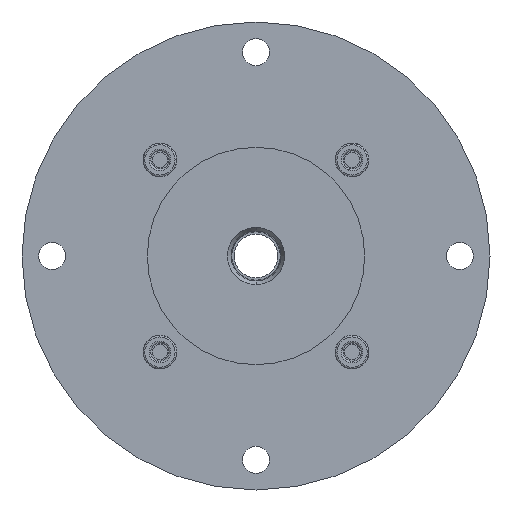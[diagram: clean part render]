
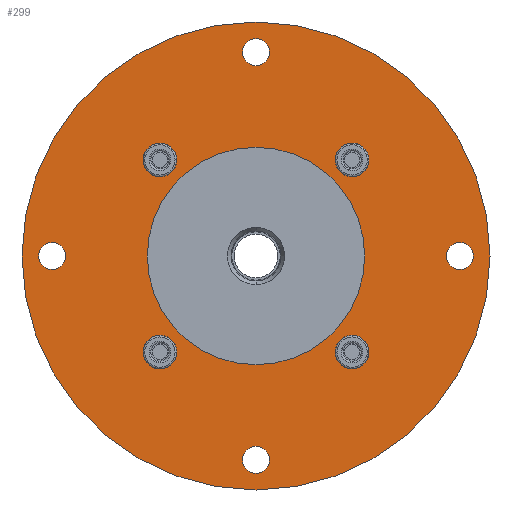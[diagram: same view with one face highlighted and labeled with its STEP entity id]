
A CAD part, front view. The second image highlights one B-rep face of the part: STEP entity #299.
In plain terms, the highlighted planar face has unit normal (0, -1, 0).
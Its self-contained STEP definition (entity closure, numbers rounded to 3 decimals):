
#58=CARTESIAN_POINT('',(31.82,2.5,26.22));
#59=VERTEX_POINT('',#58);
#60=CARTESIAN_POINT('',(37.42,2.5,31.82));
#61=VERTEX_POINT('',#60);
#62=CARTESIAN_POINT('',(31.82,2.5,31.82));
#63=DIRECTION('',(0.0,-1.0,0.0));
#64=DIRECTION('',(1.0,0.0,-0.0));
#65=AXIS2_PLACEMENT_3D('',#62,#63,#64);
#66=CIRCLE('',#65,5.6);
#67=EDGE_CURVE('no 1008',#59,#61,#66,.T.);
#68=ORIENTED_EDGE('',*,*,#67,.F.);
#69=CARTESIAN_POINT('',(31.82,2.5,37.42));
#70=VERTEX_POINT('',#69);
#71=CARTESIAN_POINT('',(31.82,2.5,31.82));
#72=DIRECTION('',(0.0,-1.0,0.0));
#73=DIRECTION('',(1.0,0.0,-0.0));
#74=AXIS2_PLACEMENT_3D('',#71,#72,#73);
#75=CIRCLE('',#74,5.6);
#76=EDGE_CURVE('no 1014',#70,#59,#75,.T.);
#77=ORIENTED_EDGE('',*,*,#76,.F.);
#78=CARTESIAN_POINT('',(31.82,2.5,31.82));
#79=DIRECTION('',(0.0,-1.0,0.0));
#80=DIRECTION('',(1.0,0.0,-0.0));
#81=AXIS2_PLACEMENT_3D('',#78,#79,#80);
#82=CIRCLE('',#81,5.6);
#83=EDGE_CURVE('no 1018',#61,#70,#82,.T.);
#84=ORIENTED_EDGE('',*,*,#83,.F.);
#85=EDGE_LOOP('',(#68,#77,#84));
#86=FACE_BOUND('',#85,.T.);
#87=CARTESIAN_POINT('',(-31.82,2.5,26.22));
#88=VERTEX_POINT('',#87);
#89=CARTESIAN_POINT('',(-31.82,2.5,37.42));
#90=VERTEX_POINT('',#89);
#91=CARTESIAN_POINT('',(-31.82,2.5,31.82));
#92=DIRECTION('',(0.0,-1.0,0.0));
#93=DIRECTION('',(0.0,0.0,1.0));
#94=AXIS2_PLACEMENT_3D('',#91,#92,#93);
#95=CIRCLE('',#94,5.6);
#96=EDGE_CURVE('no 1027',#88,#90,#95,.T.);
#97=ORIENTED_EDGE('',*,*,#96,.F.);
#98=CARTESIAN_POINT('',(-31.82,2.5,31.82));
#99=DIRECTION('',(0.0,-1.0,0.0));
#100=DIRECTION('',(0.0,0.0,1.0));
#101=AXIS2_PLACEMENT_3D('',#98,#99,#100);
#102=CIRCLE('',#101,5.6);
#103=EDGE_CURVE('no 1031',#90,#88,#102,.T.);
#104=ORIENTED_EDGE('',*,*,#103,.F.);
#105=EDGE_LOOP('',(#97,#104));
#106=FACE_BOUND('',#105,.T.);
#107=CARTESIAN_POINT('',(-31.82,2.5,-26.22));
#108=VERTEX_POINT('',#107);
#109=CARTESIAN_POINT('',(-37.42,2.5,-31.82));
#110=VERTEX_POINT('',#109);
#111=CARTESIAN_POINT('',(-31.82,2.5,-31.82));
#112=DIRECTION('',(0.0,-1.0,0.0));
#113=DIRECTION('',(-1.0,0.0,0.0));
#114=AXIS2_PLACEMENT_3D('',#111,#112,#113);
#115=CIRCLE('',#114,5.6);
#116=EDGE_CURVE('no 1040',#108,#110,#115,.T.);
#117=ORIENTED_EDGE('',*,*,#116,.F.);
#118=CARTESIAN_POINT('',(-31.82,2.5,-37.42));
#119=VERTEX_POINT('',#118);
#120=CARTESIAN_POINT('',(-31.82,2.5,-31.82));
#121=DIRECTION('',(0.0,-1.0,0.0));
#122=DIRECTION('',(-1.0,0.0,0.0));
#123=AXIS2_PLACEMENT_3D('',#120,#121,#122);
#124=CIRCLE('',#123,5.6);
#125=EDGE_CURVE('no 1046',#119,#108,#124,.T.);
#126=ORIENTED_EDGE('',*,*,#125,.F.);
#127=CARTESIAN_POINT('',(-31.82,2.5,-31.82));
#128=DIRECTION('',(0.0,-1.0,0.0));
#129=DIRECTION('',(-1.0,0.0,0.0));
#130=AXIS2_PLACEMENT_3D('',#127,#128,#129);
#131=CIRCLE('',#130,5.6);
#132=EDGE_CURVE('no 1050',#110,#119,#131,.T.);
#133=ORIENTED_EDGE('',*,*,#132,.F.);
#134=EDGE_LOOP('',(#117,#126,#133));
#135=FACE_BOUND('',#134,.T.);
#136=CARTESIAN_POINT('',(31.82,2.5,-26.22));
#137=VERTEX_POINT('',#136);
#138=CARTESIAN_POINT('',(31.82,2.5,-37.42));
#139=VERTEX_POINT('',#138);
#140=CARTESIAN_POINT('',(31.82,2.5,-31.82));
#141=DIRECTION('',(0.0,-1.0,0.0));
#142=DIRECTION('',(0.0,0.0,-1.0));
#143=AXIS2_PLACEMENT_3D('',#140,#141,#142);
#144=CIRCLE('',#143,5.6);
#145=EDGE_CURVE('no 1059',#137,#139,#144,.T.);
#146=ORIENTED_EDGE('',*,*,#145,.F.);
#147=CARTESIAN_POINT('',(31.82,2.5,-31.82));
#148=DIRECTION('',(0.0,-1.0,0.0));
#149=DIRECTION('',(0.0,0.0,-1.0));
#150=AXIS2_PLACEMENT_3D('',#147,#148,#149);
#151=CIRCLE('',#150,5.6);
#152=EDGE_CURVE('no 1063',#139,#137,#151,.T.);
#153=ORIENTED_EDGE('',*,*,#152,.F.);
#154=EDGE_LOOP('',(#146,#153));
#155=FACE_BOUND('',#154,.T.);
#156=CARTESIAN_POINT('',(-67.5,2.5,-4.5));
#157=VERTEX_POINT('',#156);
#158=CARTESIAN_POINT('',(-67.5,2.5,4.5));
#159=VERTEX_POINT('',#158);
#160=CARTESIAN_POINT('',(-67.5,2.5,0.0));
#161=DIRECTION('',(0.0,1.0,0.0));
#162=DIRECTION('',(-0.0,0.0,-1.0));
#163=AXIS2_PLACEMENT_3D('',#160,#161,#162);
#164=CIRCLE('',#163,4.5);
#165=EDGE_CURVE('no 1072',#157,#159,#164,.T.);
#166=ORIENTED_EDGE('',*,*,#165,.T.);
#167=CARTESIAN_POINT('',(-67.5,2.5,0.0));
#168=DIRECTION('',(0.0,1.0,0.0));
#169=DIRECTION('',(-0.0,0.0,-1.0));
#170=AXIS2_PLACEMENT_3D('',#167,#168,#169);
#171=CIRCLE('',#170,4.5);
#172=EDGE_CURVE('no 1076',#159,#157,#171,.T.);
#173=ORIENTED_EDGE('',*,*,#172,.T.);
#174=EDGE_LOOP('',(#166,#173));
#175=FACE_BOUND('',#174,.T.);
#176=CARTESIAN_POINT('',(67.5,2.5,4.5));
#177=VERTEX_POINT('',#176);
#178=CARTESIAN_POINT('',(67.5,2.5,-4.5));
#179=VERTEX_POINT('',#178);
#180=CARTESIAN_POINT('',(67.5,2.5,-0.0));
#181=DIRECTION('',(0.0,1.0,0.0));
#182=DIRECTION('',(0.0,0.0,1.0));
#183=AXIS2_PLACEMENT_3D('',#180,#181,#182);
#184=CIRCLE('',#183,4.5);
#185=EDGE_CURVE('no 1085',#177,#179,#184,.T.);
#186=ORIENTED_EDGE('',*,*,#185,.T.);
#187=CARTESIAN_POINT('',(67.5,2.5,-0.0));
#188=DIRECTION('',(0.0,1.0,0.0));
#189=DIRECTION('',(0.0,0.0,1.0));
#190=AXIS2_PLACEMENT_3D('',#187,#188,#189);
#191=CIRCLE('',#190,4.5);
#192=EDGE_CURVE('no 1089',#179,#177,#191,.T.);
#193=ORIENTED_EDGE('',*,*,#192,.T.);
#194=EDGE_LOOP('',(#186,#193));
#195=FACE_BOUND('',#194,.T.);
#196=CARTESIAN_POINT('',(0.0,2.5,36.0));
#197=VERTEX_POINT('',#196);
#198=CARTESIAN_POINT('',(0.0,2.5,-36.0));
#199=VERTEX_POINT('',#198);
#200=CARTESIAN_POINT('',(0.0,2.5,0.0));
#201=DIRECTION('',(0.0,-1.0,0.0));
#202=DIRECTION('',(0.0,0.0,-1.0));
#203=AXIS2_PLACEMENT_3D('',#200,#201,#202);
#204=CIRCLE('',#203,36.0);
#205=EDGE_CURVE('no 1098',#197,#199,#204,.T.);
#206=ORIENTED_EDGE('',*,*,#205,.F.);
#207=CARTESIAN_POINT('',(0.0,2.5,0.0));
#208=DIRECTION('',(0.0,-1.0,0.0));
#209=DIRECTION('',(0.0,0.0,-1.0));
#210=AXIS2_PLACEMENT_3D('',#207,#208,#209);
#211=CIRCLE('',#210,36.0);
#212=EDGE_CURVE('no 1102',#199,#197,#211,.T.);
#213=ORIENTED_EDGE('',*,*,#212,.F.);
#214=EDGE_LOOP('',(#206,#213));
#215=FACE_BOUND('',#214,.T.);
#216=CARTESIAN_POINT('',(0.0,2.5,-77.5));
#217=VERTEX_POINT('',#216);
#218=CARTESIAN_POINT('',(0.0,2.5,77.5));
#219=VERTEX_POINT('',#218);
#220=CARTESIAN_POINT('',(0.0,2.5,0.0));
#221=DIRECTION('',(0.0,-1.0,0.0));
#222=DIRECTION('',(0.0,0.0,-1.0));
#223=AXIS2_PLACEMENT_3D('',#220,#221,#222);
#224=CIRCLE('',#223,77.5);
#225=EDGE_CURVE('no 1111',#217,#219,#224,.T.);
#226=ORIENTED_EDGE('',*,*,#225,.T.);
#227=CARTESIAN_POINT('',(0.0,2.5,0.0));
#228=DIRECTION('',(0.0,-1.0,0.0));
#229=DIRECTION('',(0.0,0.0,-1.0));
#230=AXIS2_PLACEMENT_3D('',#227,#228,#229);
#231=CIRCLE('',#230,77.5);
#232=EDGE_CURVE('no 1115',#219,#217,#231,.T.);
#233=ORIENTED_EDGE('',*,*,#232,.T.);
#234=EDGE_LOOP('',(#226,#233));
#235=FACE_OUTER_BOUND('',#234,.T.);
#236=CARTESIAN_POINT('',(4.5,2.5,-67.5));
#237=VERTEX_POINT('',#236);
#238=CARTESIAN_POINT('',(-0.0,2.5,-72.0));
#239=VERTEX_POINT('',#238);
#240=CARTESIAN_POINT('',(-0.0,2.5,-67.5));
#241=DIRECTION('',(0.0,1.0,0.0));
#242=DIRECTION('',(1.0,0.0,-0.0));
#243=AXIS2_PLACEMENT_3D('',#240,#241,#242);
#244=CIRCLE('',#243,4.5);
#245=EDGE_CURVE('no 1124',#237,#239,#244,.T.);
#246=ORIENTED_EDGE('',*,*,#245,.T.);
#247=CARTESIAN_POINT('',(-0.0,2.5,-63.0));
#248=VERTEX_POINT('',#247);
#249=CARTESIAN_POINT('',(-0.0,2.5,-67.5));
#250=DIRECTION('',(0.0,1.0,0.0));
#251=DIRECTION('',(1.0,0.0,-0.0));
#252=AXIS2_PLACEMENT_3D('',#249,#250,#251);
#253=CIRCLE('',#252,4.5);
#254=EDGE_CURVE('no 1130',#239,#248,#253,.T.);
#255=ORIENTED_EDGE('',*,*,#254,.T.);
#256=CARTESIAN_POINT('',(-0.0,2.5,-67.5));
#257=DIRECTION('',(0.0,1.0,0.0));
#258=DIRECTION('',(1.0,0.0,-0.0));
#259=AXIS2_PLACEMENT_3D('',#256,#257,#258);
#260=CIRCLE('',#259,4.5);
#261=EDGE_CURVE('no 1134',#248,#237,#260,.T.);
#262=ORIENTED_EDGE('',*,*,#261,.T.);
#263=EDGE_LOOP('',(#246,#255,#262));
#264=FACE_BOUND('',#263,.T.);
#265=CARTESIAN_POINT('',(-4.5,2.5,67.5));
#266=VERTEX_POINT('',#265);
#267=CARTESIAN_POINT('',(0.0,2.5,72.0));
#268=VERTEX_POINT('',#267);
#269=CARTESIAN_POINT('',(0.0,2.5,67.5));
#270=DIRECTION('',(0.0,1.0,0.0));
#271=DIRECTION('',(-1.0,0.0,0.0));
#272=AXIS2_PLACEMENT_3D('',#269,#270,#271);
#273=CIRCLE('',#272,4.5);
#274=EDGE_CURVE('no 1143',#266,#268,#273,.T.);
#275=ORIENTED_EDGE('',*,*,#274,.T.);
#276=CARTESIAN_POINT('',(0.0,2.5,63.0));
#277=VERTEX_POINT('',#276);
#278=CARTESIAN_POINT('',(0.0,2.5,67.5));
#279=DIRECTION('',(0.0,1.0,0.0));
#280=DIRECTION('',(-1.0,0.0,0.0));
#281=AXIS2_PLACEMENT_3D('',#278,#279,#280);
#282=CIRCLE('',#281,4.5);
#283=EDGE_CURVE('no 1149',#268,#277,#282,.T.);
#284=ORIENTED_EDGE('',*,*,#283,.T.);
#285=CARTESIAN_POINT('',(0.0,2.5,67.5));
#286=DIRECTION('',(0.0,1.0,0.0));
#287=DIRECTION('',(-1.0,0.0,0.0));
#288=AXIS2_PLACEMENT_3D('',#285,#286,#287);
#289=CIRCLE('',#288,4.5);
#290=EDGE_CURVE('no 1153',#277,#266,#289,.T.);
#291=ORIENTED_EDGE('',*,*,#290,.T.);
#292=EDGE_LOOP('',(#275,#284,#291));
#293=FACE_BOUND('',#292,.T.);
#294=CARTESIAN_POINT('',(0.0,2.5,0.0));
#295=DIRECTION('',(0.0,-1.0,0.0));
#296=DIRECTION('',(0.0,0.0,-1.0));
#297=AXIS2_PLACEMENT_3D('',#294,#295,#296);
#298=PLANE('',#297);
#299=ADVANCED_FACE('no 999',(#86,#106,#135,#155,#175,#195,#215,#235,#264,#293),#298,.T.);
